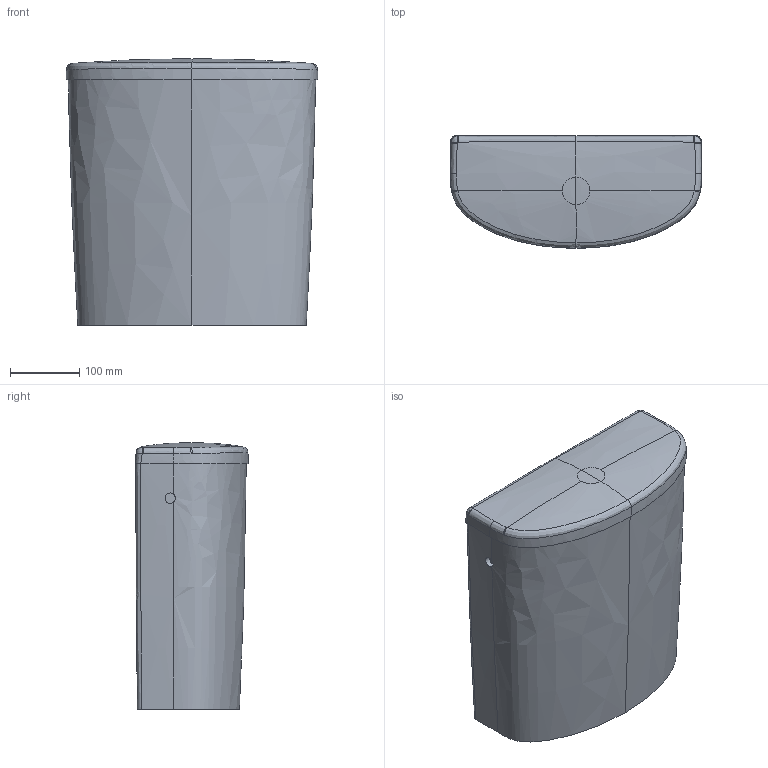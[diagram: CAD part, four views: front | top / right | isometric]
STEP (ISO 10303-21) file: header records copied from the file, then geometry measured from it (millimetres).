
FILE_DESCRIPTION(/* description */ (''),/* implementation_level */ '2;1');
FILE_NAME(/* name */ 'C:\Planerdaten\Export PLA\500.269.01.1\stp\500269.stp',/* time_stamp */ '2020-05-27T08:25:40+02:00',/* author */ ('seihe2'),/* organization */ (''),/* preprocessor_version */ 'ST-DEVELOPER v16.13',/* originating_system */ 'Autodesk Inventor 2018',/* authorisation */ '');
FILE_SCHEMA (('AUTOMOTIVE_DESIGN { 1 0 10303 214 3 1 1 }'));
Length unit declared in the file: millimetre
Products named in the file (1): AP-SPK-a Ge+Snv 2-M 6/3L WAs
Bounding box: 364 x 163 x 385.34 mm (x, y, z)
Volume: 17875306.4 mm3; surface area: 432630.7 mm2
Topology: 1 solids, 1 shells, 48 faces, 115 edges, 67 vertices
Faces by surface type: bspline 42, plane 5, cylinder 1
Full cylindrical faces by diameter (mm): 15 x1
Entity records: 7944 total; most frequent: CARTESIAN_POINT 7059, ORIENTED_EDGE 222, EDGE_CURVE 111, B_SPLINE_CURVE_WITH_KNOTS 76, DIRECTION 72, VERTEX_POINT 66, EDGE_LOOP 49, STYLED_ITEM 49
